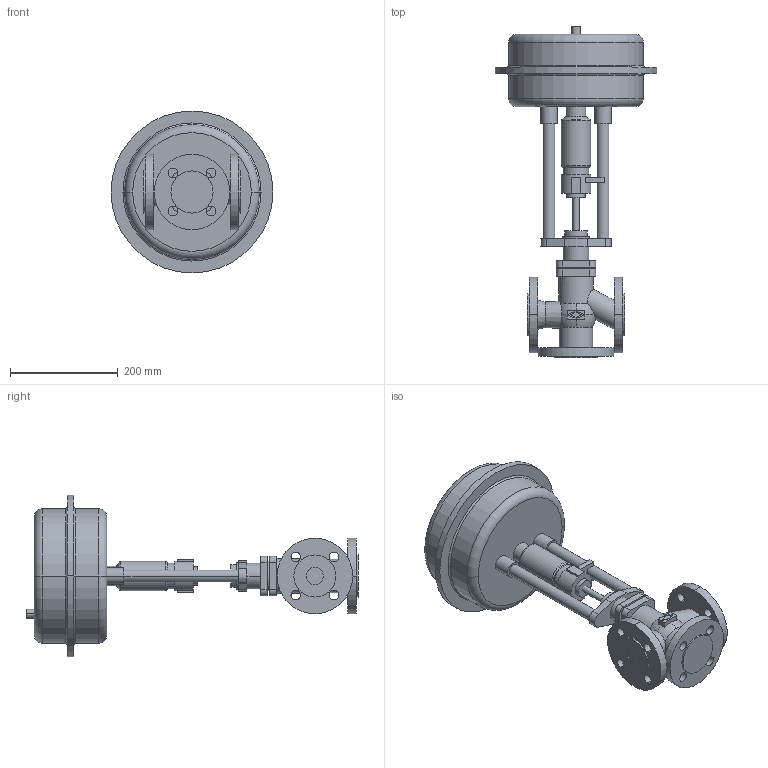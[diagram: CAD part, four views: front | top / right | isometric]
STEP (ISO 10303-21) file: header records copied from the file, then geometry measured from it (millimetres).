
FILE_DESCRIPTION(('OneSpaceDesigner STEP Export'),'2;1');
FILE_NAME('c000000672.stp','2006-09-19T10:07:10',(''),(''),'OneSpace Designer STEP processor for AP214 (Solid Model)','OneSpace Designer 13.20A 18-Aug-2005 (C) CoCreate Software GmbH','');
FILE_SCHEMA(('AUTOMOTIVE_DESIGN { 1 0 10303 214 1 1 1 1 }'));
Length unit declared in the file: millimetre
Products named in the file (2): 1; 2
Bounding box: 300 x 615.6 x 300 mm (x, y, z)
Volume: 8995743.1 mm3; surface area: 497929.5 mm2
Topology: 2 solids, 2 shells, 206 faces, 501 edges, 327 vertices
Faces by surface type: cylinder 94, plane 81, torus 23, cone 8
Entity records: 5528 total; most frequent: CARTESIAN_POINT 1079, ORIENTED_EDGE 1002, DIRECTION 808, EDGE_CURVE 501, VERTEX_POINT 327, AXIS2_PLACEMENT_3D 294, EDGE_LOOP 258, VECTOR 220
